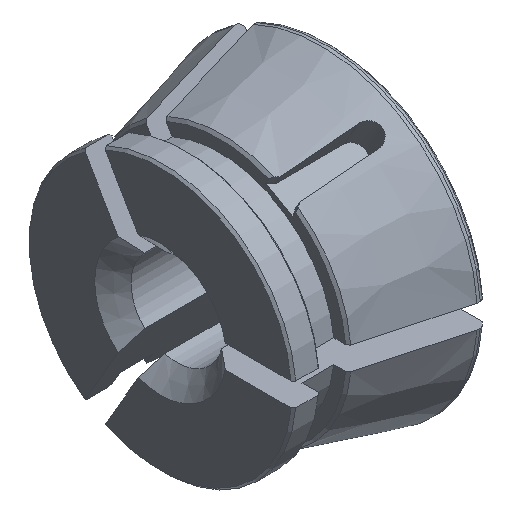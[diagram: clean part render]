
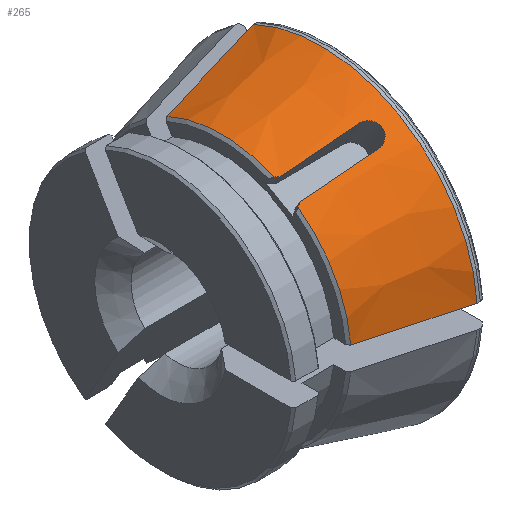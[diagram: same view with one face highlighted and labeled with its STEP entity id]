
A CAD part, isometric view. The second image highlights one B-rep face of the part: STEP entity #265.
In plain terms, the highlighted conical face has half-angle 15 degrees and reference radius 34 mm.
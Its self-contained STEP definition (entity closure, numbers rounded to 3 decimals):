
#69=ELLIPSE('',#1975,63.269,32.136);
#70=ELLIPSE('',#1979,63.269,32.136);
#83=CONICAL_SURFACE('',#1980,34.,15.);
#162=FACE_OUTER_BOUND('',#628,.T.);
#265=ADVANCED_FACE('',(#162),#83,.T.);
#628=EDGE_LOOP('',(#1028,#1029,#1030,#1031,#1032,#1033,#1034,#1035,#1036,
#1037));
#739=CIRCLE('',#1976,28.203);
#740=CIRCLE('',#1977,34.);
#741=CIRCLE('',#1978,28.203);
#1028=ORIENTED_EDGE('',*,*,#1666,.F.);
#1029=ORIENTED_EDGE('',*,*,#1667,.T.);
#1030=ORIENTED_EDGE('',*,*,#1653,.T.);
#1031=ORIENTED_EDGE('',*,*,#1668,.T.);
#1032=ORIENTED_EDGE('',*,*,#1639,.F.);
#1033=ORIENTED_EDGE('',*,*,#1669,.T.);
#1034=ORIENTED_EDGE('',*,*,#1670,.F.);
#1035=ORIENTED_EDGE('',*,*,#1671,.F.);
#1036=ORIENTED_EDGE('',*,*,#1672,.F.);
#1037=ORIENTED_EDGE('',*,*,#1673,.F.);
#1422=VERTEX_POINT('',#3185);
#1423=VERTEX_POINT('',#3190);
#1434=VERTEX_POINT('',#3248);
#1435=VERTEX_POINT('',#3256);
#1442=VERTEX_POINT('',#3291);
#1443=VERTEX_POINT('',#3292);
#1444=VERTEX_POINT('',#3296);
#1445=VERTEX_POINT('',#3298);
#1446=VERTEX_POINT('',#3303);
#1447=VERTEX_POINT('',#3335);
#1639=EDGE_CURVE('',#1422,#1423,#1834,.T.);
#1653=EDGE_CURVE('',#1435,#1434,#1842,.T.);
#1666=EDGE_CURVE('',#1442,#1443,#69,.T.);
#1667=EDGE_CURVE('',#1442,#1435,#739,.T.);
#1668=EDGE_CURVE('',#1434,#1423,#740,.T.);
#1669=EDGE_CURVE('',#1422,#1444,#741,.T.);
#1670=EDGE_CURVE('',#1445,#1444,#70,.T.);
#1671=EDGE_CURVE('',#1446,#1445,#1847,.T.);
#1672=EDGE_CURVE('',#1447,#1446,#1848,.T.);
#1673=EDGE_CURVE('',#1443,#1447,#1849,.T.);
#1834=B_SPLINE_CURVE_WITH_KNOTS('',3,(#3186,#3187,#3188,#3189),
 .UNSPECIFIED.,.F.,.F.,(4,4),(0.,1.),.UNSPECIFIED.);
#1842=B_SPLINE_CURVE_WITH_KNOTS('',3,(#3249,#3250,#3251,#3252,#3253,#3254,
#3255),.UNSPECIFIED.,.F.,.F.,(4,3,4),(0.,0.211,1.),
 .UNSPECIFIED.);
#1847=B_SPLINE_CURVE_WITH_KNOTS('',3,(#3299,#3300,#3301,#3302),
 .UNSPECIFIED.,.F.,.F.,(4,4),(0.,1.),.UNSPECIFIED.);
#1848=B_SPLINE_CURVE_WITH_KNOTS('',3,(#3304,#3305,#3306,#3307,#3308,#3309,
#3310,#3311,#3312,#3313,#3314,#3315,#3316,#3317,#3318,#3319,#3320,#3321,
#3322,#3323,#3324,#3325,#3326,#3327,#3328,#3329,#3330,#3331,#3332,#3333,
#3334),.UNSPECIFIED.,.F.,.F.,(4,3,3,3,3,3,3,3,3,3,4),(0.,0.113,
0.226,0.338,0.445,0.547,
0.647,0.748,0.854,0.964,
1.),.UNSPECIFIED.);
#1849=B_SPLINE_CURVE_WITH_KNOTS('',3,(#3336,#3337,#3338,#3339),
 .UNSPECIFIED.,.F.,.F.,(4,4),(0.,1.),.UNSPECIFIED.);
#1975=AXIS2_PLACEMENT_3D('',#3290,#2306,#2307);
#1976=AXIS2_PLACEMENT_3D('',#3293,#2308,#2309);
#1977=AXIS2_PLACEMENT_3D('',#3294,#2310,#2311);
#1978=AXIS2_PLACEMENT_3D('',#3295,#2312,#2313);
#1979=AXIS2_PLACEMENT_3D('',#3297,#2314,#2315);
#1980=AXIS2_PLACEMENT_3D('',#3340,#2316,#2317);
#2306=DIRECTION('',(-0.555,0.721,0.416));
#2307=DIRECTION('',(0.832,0.48,0.277));
#2308=DIRECTION('',(1.,0.,0.));
#2309=DIRECTION('',(0.,0.866,0.5));
#2310=DIRECTION('',(-1.,0.,0.));
#2311=DIRECTION('',(0.,0.866,0.5));
#2312=DIRECTION('',(1.,0.,0.));
#2313=DIRECTION('',(0.,0.866,0.5));
#2314=DIRECTION('',(-0.555,-0.721,-0.416));
#2315=DIRECTION('',(0.832,-0.48,-0.277));
#2316=DIRECTION('',(1.,0.,0.));
#2317=DIRECTION('',(0.,0.866,0.5));
#3185=CARTESIAN_POINT('',(20.265,11.86,25.588));
#3186=CARTESIAN_POINT('',(20.265,11.86,25.588));
#3187=CARTESIAN_POINT('',(27.475,12.83,27.268));
#3188=CARTESIAN_POINT('',(34.686,13.8,28.947));
#3189=CARTESIAN_POINT('',(41.898,14.768,30.625));
#3190=CARTESIAN_POINT('',(41.898,14.768,30.625));
#3248=CARTESIAN_POINT('',(41.898,-33.906,2.523));
#3249=CARTESIAN_POINT('',(20.265,-28.09,2.523));
#3250=CARTESIAN_POINT('',(21.785,-28.499,2.523));
#3251=CARTESIAN_POINT('',(23.304,-28.908,2.523));
#3252=CARTESIAN_POINT('',(24.824,-29.317,2.523));
#3253=CARTESIAN_POINT('',(30.515,-30.847,2.523));
#3254=CARTESIAN_POINT('',(36.206,-32.377,2.523));
#3255=CARTESIAN_POINT('',(41.898,-33.906,2.523));
#3256=CARTESIAN_POINT('',(20.265,-28.09,2.523));
#3290=CARTESIAN_POINT('',(45.986,12.216,7.053));
#3291=CARTESIAN_POINT('',(20.265,-16.654,22.762));
#3292=CARTESIAN_POINT('',(21.043,-16.335,23.247));
#3293=CARTESIAN_POINT('',(20.265,0.,0.));
#3294=CARTESIAN_POINT('',(41.898,0.,0.));
#3295=CARTESIAN_POINT('',(20.265,0.,0.));
#3296=CARTESIAN_POINT('',(20.265,-11.385,25.803));
#3297=CARTESIAN_POINT('',(45.986,-12.216,-7.053));
#3298=CARTESIAN_POINT('',(21.043,-11.965,25.77));
#3299=CARTESIAN_POINT('',(36.011,-13.977,29.255));
#3300=CARTESIAN_POINT('',(31.022,-13.307,28.094));
#3301=CARTESIAN_POINT('',(26.032,-12.636,26.932));
#3302=CARTESIAN_POINT('',(21.043,-11.965,25.77));
#3303=CARTESIAN_POINT('',(36.011,-13.977,29.255));
#3304=CARTESIAN_POINT('',(36.011,-18.347,26.732));
#3305=CARTESIAN_POINT('',(36.304,-18.386,26.801));
#3306=CARTESIAN_POINT('',(36.6,-18.383,26.899));
#3307=CARTESIAN_POINT('',(36.875,-18.337,27.02));
#3308=CARTESIAN_POINT('',(37.15,-18.291,27.14));
#3309=CARTESIAN_POINT('',(37.411,-18.2,27.285));
#3310=CARTESIAN_POINT('',(37.637,-18.072,27.442));
#3311=CARTESIAN_POINT('',(37.86,-17.944,27.598));
#3312=CARTESIAN_POINT('',(38.055,-17.775,27.77));
#3313=CARTESIAN_POINT('',(38.202,-17.576,27.942));
#3314=CARTESIAN_POINT('',(38.343,-17.386,28.106));
#3315=CARTESIAN_POINT('',(38.445,-17.162,28.275));
#3316=CARTESIAN_POINT('',(38.495,-16.926,28.432));
#3317=CARTESIAN_POINT('',(38.543,-16.701,28.58));
#3318=CARTESIAN_POINT('',(38.547,-16.457,28.723));
#3319=CARTESIAN_POINT('',(38.505,-16.216,28.846));
#3320=CARTESIAN_POINT('',(38.465,-15.98,28.966));
#3321=CARTESIAN_POINT('',(38.381,-15.741,29.071));
#3322=CARTESIAN_POINT('',(38.262,-15.516,29.154));
#3323=CARTESIAN_POINT('',(38.141,-15.288,29.239));
#3324=CARTESIAN_POINT('',(37.979,-15.069,29.303));
#3325=CARTESIAN_POINT('',(37.791,-14.877,29.344));
#3326=CARTESIAN_POINT('',(37.594,-14.676,29.387));
#3327=CARTESIAN_POINT('',(37.364,-14.498,29.406));
#3328=CARTESIAN_POINT('',(37.117,-14.356,29.401));
#3329=CARTESIAN_POINT('',(36.858,-14.208,29.396));
#3330=CARTESIAN_POINT('',(36.575,-14.096,29.366));
#3331=CARTESIAN_POINT('',(36.29,-14.029,29.313));
#3332=CARTESIAN_POINT('',(36.198,-14.007,29.296));
#3333=CARTESIAN_POINT('',(36.105,-13.99,29.277));
#3334=CARTESIAN_POINT('',(36.011,-13.977,29.255));
#3335=CARTESIAN_POINT('',(36.011,-18.347,26.732));
#3336=CARTESIAN_POINT('',(21.043,-16.335,23.247));
#3337=CARTESIAN_POINT('',(26.032,-17.006,24.409));
#3338=CARTESIAN_POINT('',(31.022,-17.676,25.571));
#3339=CARTESIAN_POINT('',(36.011,-18.347,26.732));
#3340=CARTESIAN_POINT('',(41.898,0.,0.));
